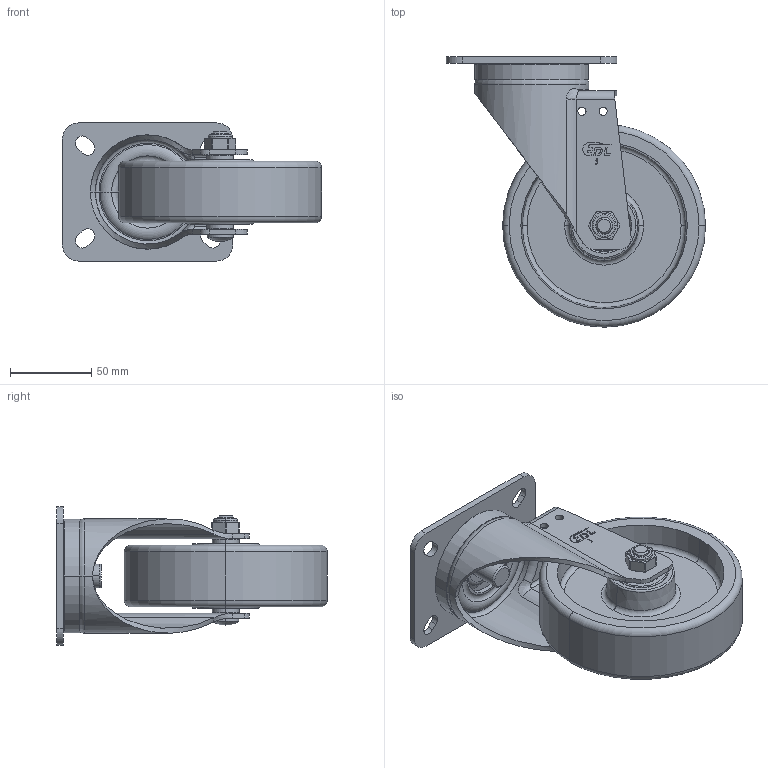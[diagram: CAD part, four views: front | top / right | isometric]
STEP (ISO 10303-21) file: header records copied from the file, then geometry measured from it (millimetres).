
FILE_DESCRIPTION((''),'2;1');
FILE_NAME('66115_ASM_2_ASM','2024-04-27T',('Lenovo'),(''),'PRO/ENGINEER BY PARAMETRIC TECHNOLOGY CORPORATION, 2010280','PRO/ENGINEER BY PARAMETRIC TECHNOLOGY CORPORATION, 2010280','');
FILE_SCHEMA(('CONFIG_CONTROL_DESIGN'));
Length unit declared in the file: millimetre
Products named in the file (27): 6610-201_1; 6615-311_4; 6610-051_1; 6600-734_1; 675-986A_3; MANIFOLD_SOLID_BREP_15429; MANIFOLD_SOLID_BREP_15797; MANIFOLD_SOLID_BREP_15835; MANIFOLD_SOLID_BREP_15873; MANIFOLD_SOLID_BREP_15911; MANIFOLD_SOLID_BREP_15949; MANIFOLD_SOLID_BREP_15987; MANIFOLD_SOLID_BREP_16025; MANIFOLD_SOLID_BREP_16063; MANIFOLD_SOLID_BREP_16101; MANIFOLD_SOLID_BREP_16139; MANIFOLD_SOLID_BREP_16177; MANIFOLD_SOLID_BREP_16215; MANIFOLD_SOLID_BREP_16253; MANIFOLD_SOLID_BREP_16291; 6201_1_ASM; 500-66_3; 630-54A_1; 675-86A_ASM_1_ASM; 630-33A_3; 630-34_4; 66115_ASM_2_ASM
Assembly tree (28 placements, depth 4):
  66115_ASM_2_ASM
    6610-201_1
    6615-311_4
    6610-051_1
    6600-734_1
    675-86A_ASM_1_ASM
      675-986A_3
      6201_1_ASM  x2
        MANIFOLD_SOLID_BREP_15429
        MANIFOLD_SOLID_BREP_15797
        MANIFOLD_SOLID_BREP_15835
        MANIFOLD_SOLID_BREP_15873
        MANIFOLD_SOLID_BREP_15911
        MANIFOLD_SOLID_BREP_15949
        MANIFOLD_SOLID_BREP_15987
        MANIFOLD_SOLID_BREP_16025
        MANIFOLD_SOLID_BREP_16063
        MANIFOLD_SOLID_BREP_16101
        MANIFOLD_SOLID_BREP_16139
        MANIFOLD_SOLID_BREP_16177
        MANIFOLD_SOLID_BREP_16215
        MANIFOLD_SOLID_BREP_16253
        MANIFOLD_SOLID_BREP_16291
      500-66_3  x2
      630-54A_1
    630-33A_3
    630-34_4
Bounding box: 159.6 x 166.5 x 85 mm (x, y, z)
Volume: 335292.2 mm3; surface area: 134002.4 mm2
Topology: 40 solids, 40 shells, 512 faces, 1362 edges, 839 vertices
Faces by surface type: plane 181, cylinder 130, sphere 82, torus 71, cone 40, bspline 8
Entity records: 15358 total; most frequent: CARTESIAN_POINT 3701, DIRECTION 2614, ORIENTED_EDGE 2200, EDGE_CURVE 1100, AXIS2_PLACEMENT_3D 1057, VERTEX_POINT 730, CIRCLE 550, VECTOR 500
